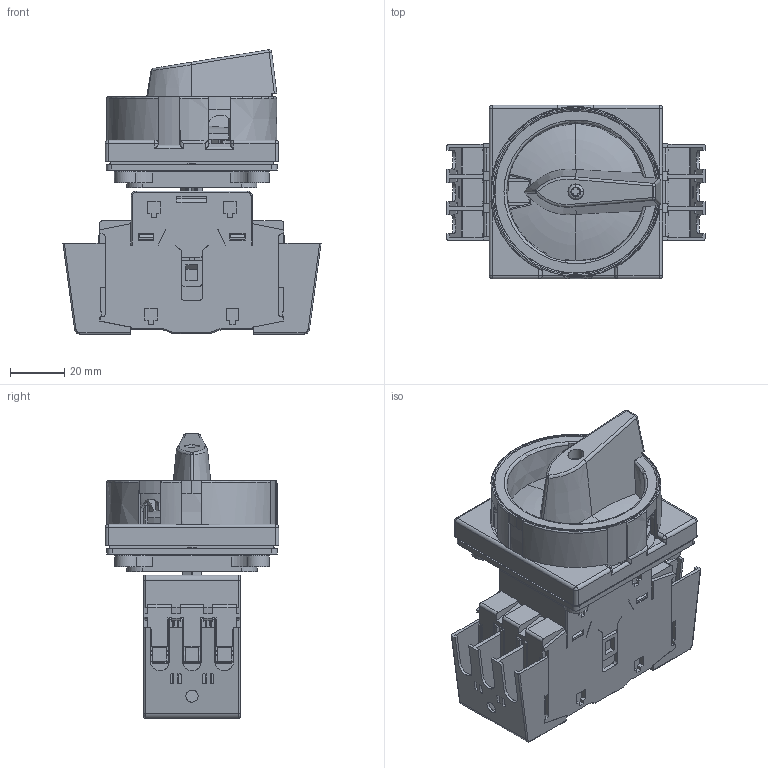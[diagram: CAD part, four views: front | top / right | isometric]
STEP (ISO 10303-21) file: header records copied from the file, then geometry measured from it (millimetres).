
FILE_DESCRIPTION (( 'STEP AP214' ), '1' );
FILE_NAME ('JHAS80-PM40R-RY.STEP', '2021-03-17T05:47:50', ( '' ), ( '' ), 'SwSTEP 2.0', 'SolidWorks 2016', '' );
FILE_SCHEMA (( 'AUTOMOTIVE_DESIGN' ));
Length unit declared in the file: millimetre
Products named in the file (1): JHAS80-PM40R-RY
Bounding box: 95.16 x 64 x 104.88 mm (x, y, z)
Volume: 184553.4 mm3; surface area: 103857.4 mm2
Topology: 5 solids, 32 shells, 4198 faces, 12091 edges, 7904 vertices
Faces by surface type: plane 2593, cylinder 1103, cone 192, bspline 148, torus 148, sphere 14
Entity records: 199838 total; most frequent: CARTESIAN_POINT 43946, ORIENTED_EDGE 24160, DIRECTION 21495, EDGE_CURVE 12080, LINE 8319, VECTOR 8319, VERTEX_POINT 7904, AXIS2_PLACEMENT_3D 6588
